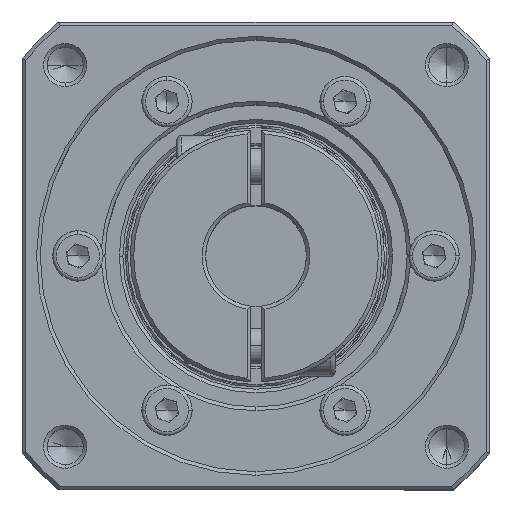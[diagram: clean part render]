
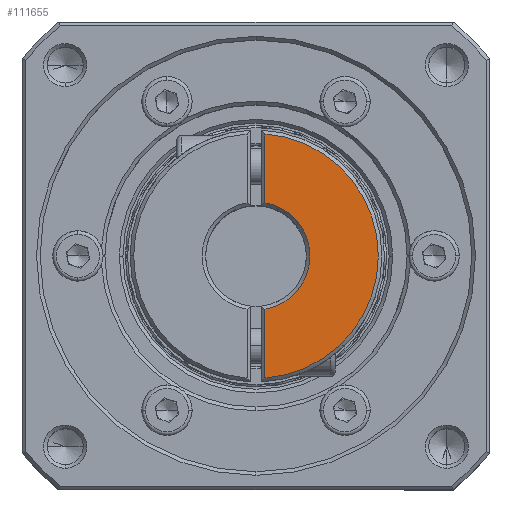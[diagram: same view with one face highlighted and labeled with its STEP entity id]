
A CAD part, top view. The second image highlights one B-rep face of the part: STEP entity #111655.
In plain terms, the highlighted planar face has unit normal (0, 0, 1).
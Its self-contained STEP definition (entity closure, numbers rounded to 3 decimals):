
#2397 = CARTESIAN_POINT ( 'NONE',  ( -92.506, 36.383, 25.797 ) ) ;
#6231 = CIRCLE ( 'NONE', #78649, 17. ) ;
#9585 = LINE ( 'NONE', #77014, #106690 ) ;
#10102 = VERTEX_POINT ( 'NONE', #84468 ) ;
#11877 = DIRECTION ( 'NONE',  ( -1., 0., 0. ) ) ;
#14083 = DIRECTION ( 'NONE',  ( 0., -1., 0. ) ) ;
#20962 = PLANE ( 'NONE',  #57328 ) ;
#26470 = CIRCLE ( 'NONE', #67161, 7.5 ) ;
#27745 = EDGE_CURVE ( 'NONE', #88715, #10102, #26470, .T. ) ;
#31398 = VECTOR ( 'NONE', #14083, 1000. ) ;
#31463 = EDGE_LOOP ( 'NONE', ( #111756, #113997, #106389, #83659 ) ) ;
#34270 = CARTESIAN_POINT ( 'NONE',  ( -91.256, 61.278, 25.797 ) ) ;
#34272 = LINE ( 'NONE', #41239, #31398 ) ;
#40314 = EDGE_CURVE ( 'NONE', #10102, #54647, #9585, .T. ) ;
#40634 = DIRECTION ( 'NONE',  ( 0., 0., -1. ) ) ;
#41239 = CARTESIAN_POINT ( 'NONE',  ( -91.256, 73.069, 25.797 ) ) ;
#44506 = CARTESIAN_POINT ( 'NONE',  ( -92.506, 53.883, 25.797 ) ) ;
#48138 = EDGE_CURVE ( 'NONE', #79164, #54647, #6231, .T. ) ;
#53957 = DIRECTION ( 'NONE',  ( -1., 0., 0. ) ) ;
#54647 = VERTEX_POINT ( 'NONE', #101785 ) ;
#57328 = AXIS2_PLACEMENT_3D ( 'NONE', #2397, #68106, #11877 ) ;
#67161 = AXIS2_PLACEMENT_3D ( 'NONE', #96895, #40634, #106377 ) ;
#68106 = DIRECTION ( 'NONE',  ( 0., 0., -1. ) ) ;
#72061 = EDGE_CURVE ( 'NONE', #79164, #88715, #34272, .T. ) ;
#77014 = CARTESIAN_POINT ( 'NONE',  ( -91.256, 73.069, 25.797 ) ) ;
#78649 = AXIS2_PLACEMENT_3D ( 'NONE', #44506, #110283, #53957 ) ;
#79164 = VERTEX_POINT ( 'NONE', #94496 ) ;
#83659 = ORIENTED_EDGE ( 'NONE', *, *, #72061, .T. ) ;
#84468 = CARTESIAN_POINT ( 'NONE',  ( -91.256, 46.488, 25.797 ) ) ;
#88715 = VERTEX_POINT ( 'NONE', #34270 ) ;
#94496 = CARTESIAN_POINT ( 'NONE',  ( -91.256, 70.837, 25.797 ) ) ;
#96895 = CARTESIAN_POINT ( 'NONE',  ( -92.506, 53.883, 25.797 ) ) ;
#99597 = FACE_OUTER_BOUND ( 'NONE', #31463, .T. ) ;
#101785 = CARTESIAN_POINT ( 'NONE',  ( -91.256, 36.929, 25.797 ) ) ;
#105877 = DIRECTION ( 'NONE',  ( 0., -1., 0. ) ) ;
#106377 = DIRECTION ( 'NONE',  ( 0., -1., 0. ) ) ;
#106389 = ORIENTED_EDGE ( 'NONE', *, *, #48138, .F. ) ;
#106690 = VECTOR ( 'NONE', #105877, 1000. ) ;
#110283 = DIRECTION ( 'NONE',  ( 0., 0., -1. ) ) ;
#111655 = ADVANCED_FACE ( 'NONE', ( #99597 ), #20962, .F. ) ;
#111756 = ORIENTED_EDGE ( 'NONE', *, *, #27745, .T. ) ;
#113997 = ORIENTED_EDGE ( 'NONE', *, *, #40314, .T. ) ;
